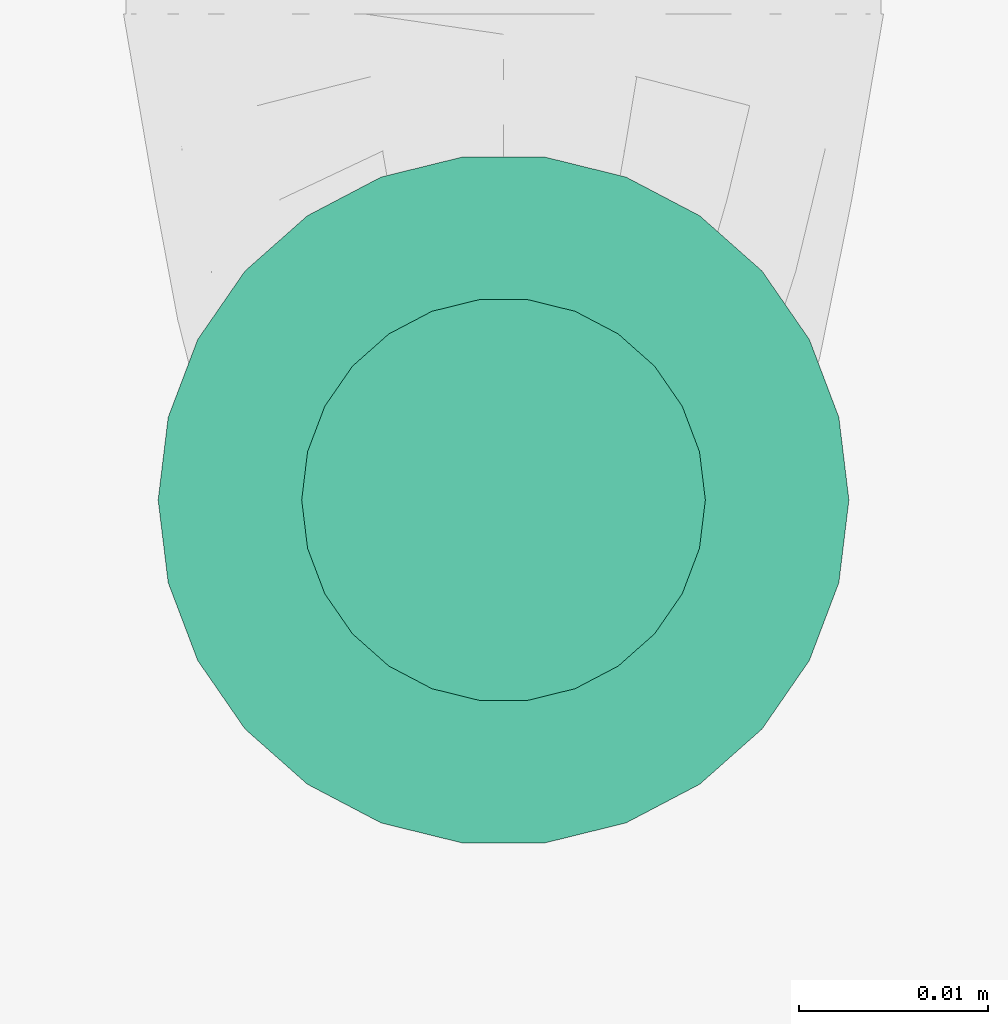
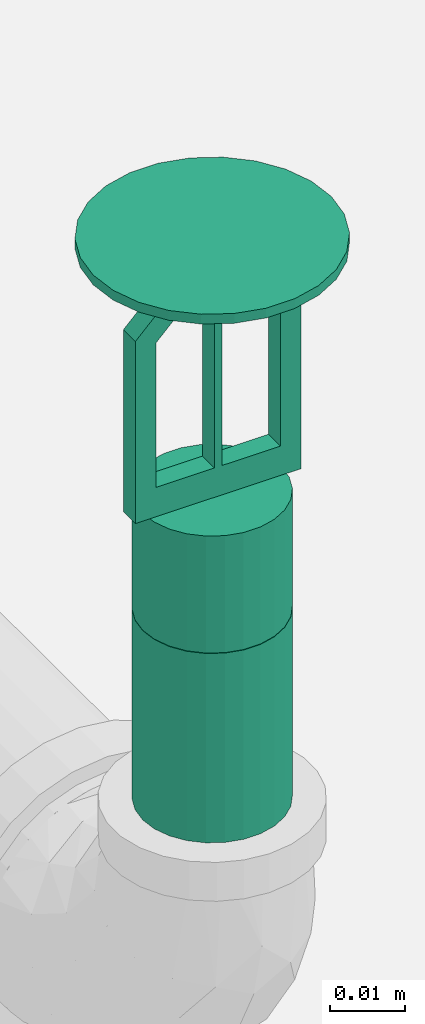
# One storey, part 86 of 108: 1 fire suppression terminal, 1 pipe segment.
"""IFC4 building model written with IfcOpenShell, lengths in feet."""

from ifc_helpers import new_model, entity, si_unit, converted_unit, derived_unit, direction, frame, frame_2d, origin, origin_2d_with_axis, place, context, subcontext, project, spatial, polyline, circle, outline, extrude, source, transform, mapped, material, type_object, type_shapes, element, save


model = new_model("IFC4")

# Units and contexts
model_context = context("Model", 3, precision=0.0001, world=origin(), true_north=direction((6.12303176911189e-17, 1.0)))
body_context = subcontext(model_context, "Body", "Model", "MODEL_VIEW")
ifc_project = project(units=[converted_unit("LENGTHUNIT", "FOOT", entity("IfcRatioMeasure", 0.3048), si_unit("LENGTHUNIT", "METRE"), dimensions=[1, 0, 0, 0, 0, 0, 0]), converted_unit("AREAUNIT", "SQUARE FOOT", entity("IfcRatioMeasure", 0.09290304), si_unit("AREAUNIT", "SQUARE_METRE"), dimensions=[2, 0, 0, 0, 0, 0, 0]), converted_unit("VOLUMEUNIT", "CUBIC FOOT", entity("IfcRatioMeasure", 0.028316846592), si_unit("VOLUMEUNIT", "CUBIC_METRE"), dimensions=[3, 0, 0, 0, 0, 0, 0]), converted_unit("PLANEANGLEUNIT", "DEGREE", entity("IfcRatioMeasure", 0.0174532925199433), si_unit("PLANEANGLEUNIT", "RADIAN"), dimensions=[0, 0, 0, 0, 0, 0, 0]), si_unit("MASSUNIT", "GRAM", prefix="KILO"), derived_unit("MASSDENSITYUNIT", [(si_unit("MASSUNIT", "GRAM", prefix="KILO"), 1), (si_unit("LENGTHUNIT", "METRE"), -3)]), si_unit("TIMEUNIT", "SECOND"), si_unit("FREQUENCYUNIT", "HERTZ"), si_unit("THERMODYNAMICTEMPERATUREUNIT", "DEGREE_CELSIUS"), derived_unit("THERMALTRANSMITTANCEUNIT", [(si_unit("MASSUNIT", "GRAM", prefix="KILO"), 1), (si_unit("THERMODYNAMICTEMPERATUREUNIT", "KELVIN"), -1), (si_unit("TIMEUNIT", "SECOND"), -3)]), derived_unit("VOLUMETRICFLOWRATEUNIT", [(si_unit("LENGTHUNIT", "METRE"), 3), (si_unit("TIMEUNIT", "SECOND"), -1)]), si_unit("ELECTRICCURRENTUNIT", "AMPERE"), si_unit("ELECTRICVOLTAGEUNIT", "VOLT"), si_unit("POWERUNIT", "WATT"), si_unit("FORCEUNIT", "NEWTON"), si_unit("ILLUMINANCEUNIT", "LUX"), si_unit("LUMINOUSFLUXUNIT", "LUMEN"), si_unit("LUMINOUSINTENSITYUNIT", "CANDELA"), derived_unit("USERDEFINED", [(si_unit("MASSUNIT", "GRAM", prefix="KILO"), -1), (si_unit("LENGTHUNIT", "METRE"), -2), (si_unit("TIMEUNIT", "SECOND"), 3), (si_unit("LUMINOUSFLUXUNIT", "LUMEN"), 1)]), derived_unit("LINEARVELOCITYUNIT", [(si_unit("LENGTHUNIT", "METRE"), 1), (si_unit("TIMEUNIT", "SECOND"), -1)]), si_unit("PRESSUREUNIT", "PASCAL"), derived_unit("USERDEFINED", [(si_unit("LENGTHUNIT", "METRE"), -2), (si_unit("MASSUNIT", "GRAM", prefix="KILO"), 1), (si_unit("TIMEUNIT", "SECOND"), -2)])], contexts=[model_context])

# Site, building, storey
site_placement = place(None, origin())
site = spatial("IfcSite", under=ifc_project, at=site_placement, Name="Default", CompositionType="ELEMENT")
building_placement = place(site_placement, origin())
building = spatial("IfcBuilding", under=site, at=building_placement, CompositionType="ELEMENT")
storey_placement = place(building_placement, frame((0.0, 0.0, 168.0)))
storey = spatial("IfcBuildingStorey", under=building, at=storey_placement, Name="Level 15", CompositionType="ELEMENT", Elevation=168.0)

# Pipe segment
pipe_segment_type = type_object("IfcPipeSegmentType", Name="Pipe Types:Fire Prot Sched 10 Main", PredefinedType="NOTDEFINED")
pipe_segment_placement = place(storey_placement, frame((-50.8376141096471, -12.7013949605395, 9.81592437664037)))
element("IfcPipeSegment", 1, at=pipe_segment_placement, inside=storey, type_object=pipe_segment_type, Name="Pipe Types:Fire Prot Sched 10 Main", ObjectType="Pipe Types:Fire Prot Sched 10 Main", PredefinedType="NOTDEFINED", context=body_context, shape_type="SweptSolid", body=[
    extrude(circle(Radius=0.035, at=origin_2d_with_axis()), frame((0.0402338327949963, 0.0402338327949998, 0.0)), (0.0, 0.0, 1.0), 0.100742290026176),
])

# Fire suppression terminal
ifc_material = material(Name="Default", Category="Miscellaneous")
fire_suppression_terminal_type = type_object("IfcFireSuppressionTerminalType", Name="Standard", PredefinedType="NOTDEFINED", material=ifc_material)
shared_shape = source(origin(), body_context, "Body", "SweptSolid", [
    extrude(outline(polyline([(-0.0416666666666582, -0.0872160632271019), (0.0416666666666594, -0.0872160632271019), (0.0416666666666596, 0.00964585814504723), (0.0167345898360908, 0.0345779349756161), (0.0167345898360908, 0.0429922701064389), (-0.0167345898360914, 0.0429922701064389), (-0.0167345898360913, 0.0345779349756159), (-0.0416666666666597, 0.00964585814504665), (-0.0416666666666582, -0.0872160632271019)]), holes=[polyline([(0.00195312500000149, -0.0715910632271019), (0.00195312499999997, 0.0261635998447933), (0.0104175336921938, 0.0261635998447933), (0.0312499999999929, 0.00533113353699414), (0.0312499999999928, -0.0715910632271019), (0.00195312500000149, -0.0715910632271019)]), polyline([(-0.0019531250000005, -0.0715910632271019), (-0.0312499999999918, -0.0715910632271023), (-0.031249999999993, 0.00533113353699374), (-0.0104175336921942, 0.0261635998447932), (-0.00195312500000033, 0.0261635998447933), (-0.0019531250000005, -0.0715910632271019)])]), frame((0.0, -0.00520833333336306, 0.14971606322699), z_axis=(0.0, 1.0, 0.0), x_axis=(-1.0, 0.0, 0.0)), (0.0, 0.0, 1.0), 0.0104166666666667),
    extrude(circle(Radius=0.035, at=frame_2d((-2.76586283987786e-18, -4.44862351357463e-17), x_axis=(1.0, 0.0))), frame((0.0, 0.0, 0.0), z_axis=(0.0, 0.0, 1.0), x_axis=(-1.0, 0.0, 0.0)), (0.0, 0.0, 1.0), 0.0624999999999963),
    extrude(circle(Radius=0.0598958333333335, at=frame_2d((5.01992838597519e-20, -7.61297178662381e-17), x_axis=(1.0, 0.0))), frame((0.0, 0.0, 0.192708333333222), z_axis=(0.0, 0.0, 1.0), x_axis=(-1.0, 0.0, 0.0)), (0.0, 0.0, 1.0), 0.00520833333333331),
])
type_shapes(fire_suppression_terminal_type, [shared_shape])
fire_suppression_terminal_placement = place(storey_placement, frame((-50.7973802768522, -12.6611611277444, 9.91666666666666)))
element("IfcFireSuppressionTerminal", 2, at=fire_suppression_terminal_placement, inside=storey, type_object=fire_suppression_terminal_type, material=ifc_material, Name="Upright:Standard", ObjectType="Upright:Standard", PredefinedType="NOTDEFINED", context=body_context, shape_type="MappedRepresentation", body=[
    mapped(shared_shape, transform((0.0, 0.0, 0.0), scale=1.0)),
])

save(model, "model.ifc")
